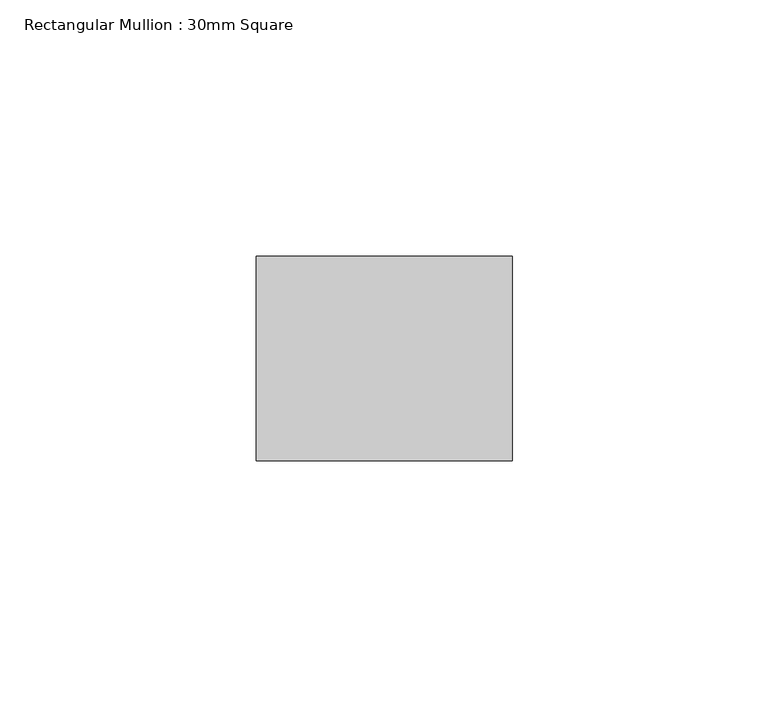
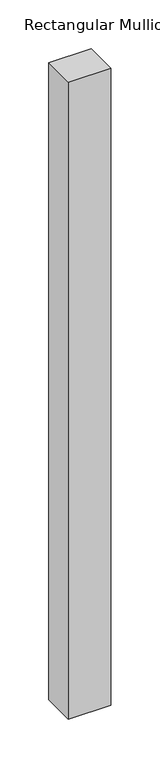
"""IFC4 building model written with IfcOpenShell, lengths in millimetres: member geometry, Rectangular Mullion : 30mm Square."""

from ifc_helpers import new_model, si_unit, frame, origin, place, context, project, spatial, polyline, outline, extrude, source, transform, mapped, element, save


def rectangular_mullion_30mm_square_5c3ddf4e(model_context):
    return source(origin(), model_context, "Body", "SweptSolid", [
        extrude(outline(polyline([(0.0, 20.0), (0.0, -20.0), (-50.0, -20.0), (-50.0, 20.0), (0.0, 20.0)])), frame((0.0, 0.0, -795.8658158), z_axis=(0.0, 0.0, 1.0), x_axis=(1.0, 0.0, 0.0)), (0.0, 0.0, 1.0), 795.8658158),
    ])


if __name__ == "__main__":
    model = new_model("IFC4")
    model_context = context("Model", 3, world=origin())
    ifc_project = project(units=[si_unit("LENGTHUNIT", "METRE", prefix="MILLI")], contexts=[model_context])
    site = spatial("IfcSite", under=ifc_project)
    building = spatial("IfcBuilding", under=site)
    placement = place(None, origin())
    rectangular_mullion_30mm_square_shape = rectangular_mullion_30mm_square_5c3ddf4e(model_context)
    element("IfcMember", 1, ObjectType="Rectangular Mullion : 30mm Square", at=placement, inside=building, context=model_context, shape_type="MappedRepresentation", body=[
        mapped(rectangular_mullion_30mm_square_shape, transform((0.0, 0.0, 0.0), x_axis=(1.0, 0.0, 0.0), y_axis=(0.0, 1.0, 0.0), z_axis=(0.0, 0.0, 1.0))),
    ])
    save(model, "model.ifc")
